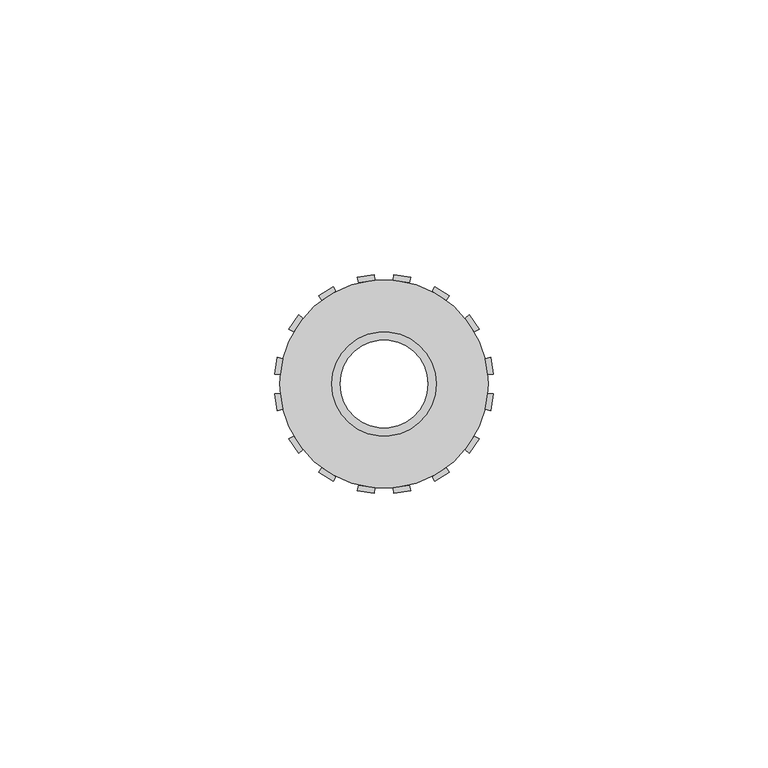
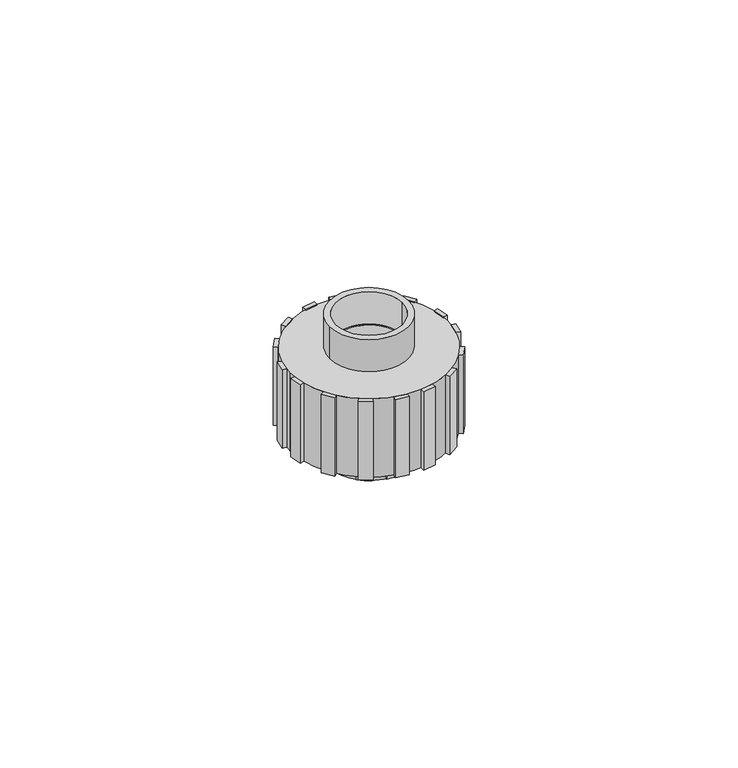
"""IFC4 building model written with IfcOpenShell, lengths in millimetres: valve geometry, Tuerca Union_Lubrizol_CPVC_FlowGuard_MX 13mm : Tuerca Union_Lubrizol_CPVC_FlowGuard_MX 13mm."""

from ifc_helpers import new_model, si_unit, point, frame, origin, origin_with_axes, origin_2d, place, context, project, spatial, polyline, circle_curve, trimmed, segment, composite_curve, outline, extrude, source, transform, mapped, element, save


def valve_b5eff330(model_context):
    return source(origin(), model_context, "Body", "SweptSolid", [
        extrude(outline(composite_curve([segment(polyline([(-1.5380547, 9.3746673), (-1.6999552, 10.3614744)]), True, "CONTINUOUS"), segment(trimmed(circle_curve(origin_2d(), 10.5), [point((-1.6999552, 10.3614744))], [point((1.6999552, 10.3614744))], False, "CARTESIAN"), True, "CONTINUOUS"), segment(polyline([(1.6999552, 10.3614744), (1.5380547, 9.3746673)]), True, "CONTINUOUS"), segment(trimmed(circle_curve(origin_2d(), 9.5), [point((1.5380547, 9.3746673))], [point((-1.5380547, 9.3746673))], True, "CARTESIAN"), True, "CONTINUOUS")], self_intersect=False)), frame((0.0, 0.0, 0.6082032), z_axis=(0.0, 0.0, 1.0), x_axis=(1.0, 0.0, 0.0)), (0.0, 0.0, 1.0), 6.8917968),
        extrude(outline(composite_curve([segment(trimmed(circle_curve(origin_2d(), 9.5), [point((6.6745199, 6.7602355))], [point((4.1645259, 8.5385434))], True, "CARTESIAN"), True, "CONTINUOUS"), segment(polyline([(4.1645259, 8.5385434), (4.602897, 9.4373375)]), True, "CONTINUOUS"), segment(trimmed(circle_curve(origin_2d(), 10.5), [point((4.602897, 9.4373375))], [point((7.377101, 7.4718392))], False, "CARTESIAN"), True, "CONTINUOUS"), segment(polyline([(7.377101, 7.4718392), (6.6745199, 6.7602355)]), True, "CONTINUOUS")], self_intersect=False)), frame((0.0, 0.0, 0.6082032), z_axis=(0.0, 0.0, 1.0), x_axis=(1.0, 0.0, 0.0)), (0.0, 0.0, 1.0), 6.8917968),
        extrude(outline(composite_curve([segment(polyline([(-6.6745199, 6.7602355), (-7.377101, 7.4718392)]), True, "CONTINUOUS"), segment(trimmed(circle_curve(origin_2d(), 10.5), [point((-7.377101, 7.4718392))], [point((-4.602897, 9.4373375))], False, "CARTESIAN"), True, "CONTINUOUS"), segment(polyline([(-4.602897, 9.4373375), (-4.1645259, 8.5385434)]), True, "CONTINUOUS"), segment(trimmed(circle_curve(origin_2d(), 9.5), [point((-4.1645259, 8.5385434))], [point((-6.6745199, 6.7602355))], True, "CARTESIAN"), True, "CONTINUOUS")], self_intersect=False)), frame((0.0, 0.0, 0.6082032), z_axis=(0.0, 0.0, 1.0), x_axis=(1.0, 0.0, 0.0)), (0.0, 0.0, 1.0), 6.8917968),
        extrude(outline(composite_curve([segment(trimmed(circle_curve(origin_2d(), 9.5), [point((-1.5380547, -9.3746673))], [point((1.5380547, -9.3746673))], True, "CARTESIAN"), True, "CONTINUOUS"), segment(polyline([(1.5380547, -9.3746673), (1.6999552, -10.3614744)]), True, "CONTINUOUS"), segment(trimmed(circle_curve(origin_2d(), 10.5), [point((1.6999552, -10.3614744))], [point((-1.6999552, -10.3614744))], False, "CARTESIAN"), True, "CONTINUOUS"), segment(polyline([(-1.6999552, -10.3614744), (-1.5380547, -9.3746673)]), True, "CONTINUOUS")], self_intersect=False)), frame((0.0, 0.0, 0.6082032), z_axis=(0.0, 0.0, 1.0), x_axis=(1.0, 0.0, 0.0)), (0.0, 0.0, 1.0), 6.8917968),
        extrude(outline(composite_curve([segment(polyline([(6.6745199, -6.7602355), (7.377101, -7.4718392)]), True, "CONTINUOUS"), segment(trimmed(circle_curve(origin_2d(), 10.5), [point((7.377101, -7.4718392))], [point((4.602897, -9.4373375))], False, "CARTESIAN"), True, "CONTINUOUS"), segment(polyline([(4.602897, -9.4373375), (4.1645259, -8.5385434)]), True, "CONTINUOUS"), segment(trimmed(circle_curve(origin_2d(), 9.5), [point((4.1645259, -8.5385434))], [point((6.6745199, -6.7602355))], True, "CARTESIAN"), True, "CONTINUOUS")], self_intersect=False)), frame((0.0, 0.0, 0.6082032), z_axis=(0.0, 0.0, 1.0), x_axis=(1.0, 0.0, 0.0)), (0.0, 0.0, 1.0), 6.8917968),
        extrude(outline(composite_curve([segment(trimmed(circle_curve(origin_2d(), 9.5), [point((-6.6745199, -6.7602355))], [point((-4.1645259, -8.5385434))], True, "CARTESIAN"), True, "CONTINUOUS"), segment(polyline([(-4.1645259, -8.5385434), (-4.602897, -9.4373375)]), True, "CONTINUOUS"), segment(trimmed(circle_curve(origin_2d(), 10.5), [point((-4.602897, -9.4373375))], [point((-7.377101, -7.4718392))], False, "CARTESIAN"), True, "CONTINUOUS"), segment(polyline([(-7.377101, -7.4718392), (-6.6745199, -6.7602355)]), True, "CONTINUOUS")], self_intersect=False)), frame((0.0, 0.0, 0.6082032), z_axis=(0.0, 0.0, 1.0), x_axis=(1.0, 0.0, 0.0)), (0.0, 0.0, 1.0), 6.8917968),
        extrude(outline(composite_curve([segment(polyline([(-4.596516, 18.4356188), (-4.8384379, 19.4059145)]), True, "CONTINUOUS"), segment(trimmed(circle_curve(origin_2d(), 20.0), [point((-4.8384379, 19.4059145))], [point((-1.7431149, 19.923894))], False, "CARTESIAN"), True, "CONTINUOUS"), segment(polyline([(-1.7431149, 19.923894), (-1.6559591, 18.9276993)]), True, "CONTINUOUS"), segment(trimmed(circle_curve(origin_2d(), 19.0), [point((-1.6559591, 18.9276993))], [point((-4.596516, 18.4356188))], True, "CARTESIAN"), True, "CONTINUOUS")], self_intersect=False)), frame((0.0, 0.0, 7.5), z_axis=(0.0, 0.0, 1.0), x_axis=(1.0, 0.0, 0.0)), (0.0, 0.0, 1.0), 20.0),
        extrude(outline(composite_curve([segment(trimmed(circle_curve(origin_2d(), 19.0), [point((-8.7732237, 16.8532058))], [point((-11.3016329, 15.2732804))], True, "CARTESIAN"), True, "CONTINUOUS"), segment(polyline([(-11.3016329, 15.2732804), (-11.8964557, 16.0771372)]), True, "CONTINUOUS"), segment(trimmed(circle_curve(origin_2d(), 20.0), [point((-11.8964557, 16.0771372))], [point((-9.2349723, 17.7402167))], False, "CARTESIAN"), True, "CONTINUOUS"), segment(polyline([(-9.2349723, 17.7402167), (-8.7732237, 16.8532058)]), True, "CONTINUOUS")], self_intersect=False)), frame((0.0, 0.0, 7.5), z_axis=(0.0, 0.0, 1.0), x_axis=(1.0, 0.0, 0.0)), (0.0, 0.0, 1.0), 20.0),
        extrude(outline(composite_curve([segment(trimmed(circle_curve(origin_2d(), 19.0), [point((-18.4356188, 4.596516))], [point((-18.9276993, 1.6559591))], True, "CARTESIAN"), True, "CONTINUOUS"), segment(polyline([(-18.9276993, 1.6559591), (-19.923894, 1.7431149)]), True, "CONTINUOUS"), segment(trimmed(circle_curve(origin_2d(), 20.0), [point((-19.923894, 1.7431149))], [point((-19.4059145, 4.8384379))], False, "CARTESIAN"), True, "CONTINUOUS"), segment(polyline([(-19.4059145, 4.8384379), (-18.4356188, 4.596516)]), True, "CONTINUOUS")], self_intersect=False)), frame((0.0, 0.0, 7.5), z_axis=(0.0, 0.0, 1.0), x_axis=(1.0, 0.0, 0.0)), (0.0, 0.0, 1.0), 20.0),
        extrude(outline(composite_curve([segment(polyline([(-16.4544827, 9.5), (-17.3205081, 10.0)]), True, "CONTINUOUS"), segment(trimmed(circle_curve(origin_2d(), 20.0), [point((-17.3205081, 10.0))], [point((-15.5429192, 12.5864078))], False, "CARTESIAN"), True, "CONTINUOUS"), segment(polyline([(-15.5429192, 12.5864078), (-14.7657733, 11.9570874)]), True, "CONTINUOUS"), segment(trimmed(circle_curve(origin_2d(), 19.0), [point((-14.7657733, 11.9570874))], [point((-16.4544827, 9.5))], True, "CARTESIAN"), True, "CONTINUOUS")], self_intersect=False)), frame((0.0, 0.0, 7.5), z_axis=(0.0, 0.0, 1.0), x_axis=(1.0, 0.0, 0.0)), (0.0, 0.0, 1.0), 20.0),
        extrude(outline(composite_curve([segment(trimmed(circle_curve(origin_2d(), 19.0), [point((4.596516, 18.4356188))], [point((1.6559591, 18.9276993))], True, "CARTESIAN"), True, "CONTINUOUS"), segment(polyline([(1.6559591, 18.9276993), (1.7431149, 19.923894)]), True, "CONTINUOUS"), segment(trimmed(circle_curve(origin_2d(), 20.0), [point((1.7431149, 19.923894))], [point((4.8384379, 19.4059145))], False, "CARTESIAN"), True, "CONTINUOUS"), segment(polyline([(4.8384379, 19.4059145), (4.596516, 18.4356188)]), True, "CONTINUOUS")], self_intersect=False)), frame((0.0, 0.0, 7.5), z_axis=(0.0, 0.0, 1.0), x_axis=(1.0, 0.0, 0.0)), (0.0, 0.0, 1.0), 20.0),
        extrude(outline(composite_curve([segment(polyline([(8.7732237, 16.8532058), (9.2349723, 17.7402167)]), True, "CONTINUOUS"), segment(trimmed(circle_curve(origin_2d(), 20.0), [point((9.2349723, 17.7402167))], [point((11.8964557, 16.0771372))], False, "CARTESIAN"), True, "CONTINUOUS"), segment(polyline([(11.8964557, 16.0771372), (11.3016329, 15.2732804)]), True, "CONTINUOUS"), segment(trimmed(circle_curve(origin_2d(), 19.0), [point((11.3016329, 15.2732804))], [point((8.7732237, 16.8532058))], True, "CARTESIAN"), True, "CONTINUOUS")], self_intersect=False)), frame((0.0, 0.0, 7.5), z_axis=(0.0, 0.0, 1.0), x_axis=(1.0, 0.0, 0.0)), (0.0, 0.0, 1.0), 20.0),
        extrude(outline(composite_curve([segment(polyline([(18.4356188, 4.596516), (19.4059145, 4.8384379)]), True, "CONTINUOUS"), segment(trimmed(circle_curve(origin_2d(), 20.0), [point((19.4059145, 4.8384379))], [point((19.923894, 1.7431149))], False, "CARTESIAN"), True, "CONTINUOUS"), segment(polyline([(19.923894, 1.7431149), (18.9276993, 1.6559591)]), True, "CONTINUOUS"), segment(trimmed(circle_curve(origin_2d(), 19.0), [point((18.9276993, 1.6559591))], [point((18.4356188, 4.596516))], True, "CARTESIAN"), True, "CONTINUOUS")], self_intersect=False)), frame((0.0, 0.0, 7.5), z_axis=(0.0, 0.0, 1.0), x_axis=(1.0, 0.0, 0.0)), (0.0, 0.0, 1.0), 20.0),
        extrude(outline(composite_curve([segment(trimmed(circle_curve(origin_2d(), 19.0), [point((16.4544827, 9.5))], [point((14.7657733, 11.9570874))], True, "CARTESIAN"), True, "CONTINUOUS"), segment(polyline([(14.7657733, 11.9570874), (15.5429192, 12.5864078)]), True, "CONTINUOUS"), segment(trimmed(circle_curve(origin_2d(), 20.0), [point((15.5429192, 12.5864078))], [point((17.3205081, 10.0))], False, "CARTESIAN"), True, "CONTINUOUS"), segment(polyline([(17.3205081, 10.0), (16.4544827, 9.5)]), True, "CONTINUOUS")], self_intersect=False)), frame((0.0, 0.0, 7.5), z_axis=(0.0, 0.0, 1.0), x_axis=(1.0, 0.0, 0.0)), (0.0, 0.0, 1.0), 20.0),
        extrude(outline(composite_curve([segment(trimmed(circle_curve(origin_2d(), 19.0), [point((-4.596516, -18.4356188))], [point((-1.6559591, -18.9276993))], True, "CARTESIAN"), True, "CONTINUOUS"), segment(polyline([(-1.6559591, -18.9276993), (-1.7431149, -19.923894)]), True, "CONTINUOUS"), segment(trimmed(circle_curve(origin_2d(), 20.0), [point((-1.7431149, -19.923894))], [point((-4.8384379, -19.4059145))], False, "CARTESIAN"), True, "CONTINUOUS"), segment(polyline([(-4.8384379, -19.4059145), (-4.596516, -18.4356188)]), True, "CONTINUOUS")], self_intersect=False)), frame((0.0, 0.0, 7.5), z_axis=(0.0, 0.0, 1.0), x_axis=(1.0, 0.0, 0.0)), (0.0, 0.0, 1.0), 20.0),
        extrude(outline(composite_curve([segment(polyline([(-8.7732237, -16.8532058), (-9.2349723, -17.7402167)]), True, "CONTINUOUS"), segment(trimmed(circle_curve(origin_2d(), 20.0), [point((-9.2349723, -17.7402167))], [point((-11.8964557, -16.0771372))], False, "CARTESIAN"), True, "CONTINUOUS"), segment(polyline([(-11.8964557, -16.0771372), (-11.3016329, -15.2732804)]), True, "CONTINUOUS"), segment(trimmed(circle_curve(origin_2d(), 19.0), [point((-11.3016329, -15.2732804))], [point((-8.7732237, -16.8532058))], True, "CARTESIAN"), True, "CONTINUOUS")], self_intersect=False)), frame((0.0, 0.0, 7.5), z_axis=(0.0, 0.0, 1.0), x_axis=(1.0, 0.0, 0.0)), (0.0, 0.0, 1.0), 20.0),
        extrude(outline(composite_curve([segment(polyline([(-18.4356188, -4.596516), (-19.4059145, -4.8384379)]), True, "CONTINUOUS"), segment(trimmed(circle_curve(origin_2d(), 20.0), [point((-19.4059145, -4.8384379))], [point((-19.923894, -1.7431149))], False, "CARTESIAN"), True, "CONTINUOUS"), segment(polyline([(-19.923894, -1.7431149), (-18.9276993, -1.6559591)]), True, "CONTINUOUS"), segment(trimmed(circle_curve(origin_2d(), 19.0), [point((-18.9276993, -1.6559591))], [point((-18.4356188, -4.596516))], True, "CARTESIAN"), True, "CONTINUOUS")], self_intersect=False)), frame((0.0, 0.0, 7.5), z_axis=(0.0, 0.0, 1.0), x_axis=(1.0, 0.0, 0.0)), (0.0, 0.0, 1.0), 20.0),
        extrude(outline(composite_curve([segment(trimmed(circle_curve(origin_2d(), 19.0), [point((-16.4544827, -9.5))], [point((-14.7657733, -11.9570874))], True, "CARTESIAN"), True, "CONTINUOUS"), segment(polyline([(-14.7657733, -11.9570874), (-15.5429192, -12.5864078)]), True, "CONTINUOUS"), segment(trimmed(circle_curve(origin_2d(), 20.0), [point((-15.5429192, -12.5864078))], [point((-17.3205081, -10.0))], False, "CARTESIAN"), True, "CONTINUOUS"), segment(polyline([(-17.3205081, -10.0), (-16.4544827, -9.5)]), True, "CONTINUOUS")], self_intersect=False)), frame((0.0, 0.0, 7.5), z_axis=(0.0, 0.0, 1.0), x_axis=(1.0, 0.0, 0.0)), (0.0, 0.0, 1.0), 20.0),
        extrude(outline(composite_curve([segment(polyline([(4.596516, -18.4356188), (4.8384379, -19.4059145)]), True, "CONTINUOUS"), segment(trimmed(circle_curve(origin_2d(), 20.0), [point((4.8384379, -19.4059145))], [point((1.7431149, -19.923894))], False, "CARTESIAN"), True, "CONTINUOUS"), segment(polyline([(1.7431149, -19.923894), (1.6559591, -18.9276993)]), True, "CONTINUOUS"), segment(trimmed(circle_curve(origin_2d(), 19.0), [point((1.6559591, -18.9276993))], [point((4.596516, -18.4356188))], True, "CARTESIAN"), True, "CONTINUOUS")], self_intersect=False)), frame((0.0, 0.0, 7.5), z_axis=(0.0, 0.0, 1.0), x_axis=(1.0, 0.0, 0.0)), (0.0, 0.0, 1.0), 20.0),
        extrude(outline(composite_curve([segment(trimmed(circle_curve(origin_2d(), 19.0), [point((8.7732237, -16.8532058))], [point((11.3016329, -15.2732804))], True, "CARTESIAN"), True, "CONTINUOUS"), segment(polyline([(11.3016329, -15.2732804), (11.8964557, -16.0771372)]), True, "CONTINUOUS"), segment(trimmed(circle_curve(origin_2d(), 20.0), [point((11.8964557, -16.0771372))], [point((9.2349723, -17.7402167))], False, "CARTESIAN"), True, "CONTINUOUS"), segment(polyline([(9.2349723, -17.7402167), (8.7732237, -16.8532058)]), True, "CONTINUOUS")], self_intersect=False)), frame((0.0, 0.0, 7.5), z_axis=(0.0, 0.0, 1.0), x_axis=(1.0, 0.0, 0.0)), (0.0, 0.0, 1.0), 20.0),
        extrude(outline(composite_curve([segment(trimmed(circle_curve(origin_2d(), 19.0), [point((18.4356188, -4.596516))], [point((18.9276993, -1.6559591))], True, "CARTESIAN"), True, "CONTINUOUS"), segment(polyline([(18.9276993, -1.6559591), (19.923894, -1.7431149)]), True, "CONTINUOUS"), segment(trimmed(circle_curve(origin_2d(), 20.0), [point((19.923894, -1.7431149))], [point((19.4059145, -4.8384379))], False, "CARTESIAN"), True, "CONTINUOUS"), segment(polyline([(19.4059145, -4.8384379), (18.4356188, -4.596516)]), True, "CONTINUOUS")], self_intersect=False)), frame((0.0, 0.0, 7.5), z_axis=(0.0, 0.0, 1.0), x_axis=(1.0, 0.0, 0.0)), (0.0, 0.0, 1.0), 20.0),
        extrude(outline(composite_curve([segment(polyline([(16.4544827, -9.5), (17.3205081, -10.0)]), True, "CONTINUOUS"), segment(trimmed(circle_curve(origin_2d(), 20.0), [point((17.3205081, -10.0))], [point((15.5429192, -12.5864078))], False, "CARTESIAN"), True, "CONTINUOUS"), segment(polyline([(15.5429192, -12.5864078), (14.7657733, -11.9570874)]), True, "CONTINUOUS"), segment(trimmed(circle_curve(origin_2d(), 19.0), [point((14.7657733, -11.9570874))], [point((16.4544827, -9.5))], True, "CARTESIAN"), True, "CONTINUOUS")], self_intersect=False)), frame((0.0, 0.0, 7.5), z_axis=(0.0, 0.0, 1.0), x_axis=(1.0, 0.0, 0.0)), (0.0, 0.0, 1.0), 20.0),
        extrude(outline(composite_curve([segment(trimmed(circle_curve(origin_2d(), 9.5), [point((-9.5, 0.0))], [point((9.5, 0.0))], False, "CARTESIAN"), True, "CONTINUOUS"), segment(trimmed(circle_curve(origin_2d(), 9.5), [point((9.5, 0.0))], [point((-9.5, 0.0))], False, "CARTESIAN"), True, "CONTINUOUS")], self_intersect=False), holes=[composite_curve([segment(trimmed(circle_curve(origin_2d(), 8.0), [point((-8.0, 0.0))], [point((8.0, 0.0))], True, "CARTESIAN"), True, "CONTINUOUS"), segment(trimmed(circle_curve(origin_2d(), 8.0), [point((8.0, 0.0))], [point((-8.0, 0.0))], True, "CARTESIAN"), True, "CONTINUOUS")], self_intersect=False)]), origin_with_axes(), (0.0, 0.0, 1.0), 7.5),
        extrude(outline(composite_curve([segment(trimmed(circle_curve(origin_2d(), 19.0), [point((-19.0, 0.0))], [point((19.0, 0.0))], False, "CARTESIAN"), True, "CONTINUOUS"), segment(trimmed(circle_curve(origin_2d(), 19.0), [point((19.0, 0.0))], [point((-19.0, 0.0))], False, "CARTESIAN"), True, "CONTINUOUS")], self_intersect=False), holes=[composite_curve([segment(trimmed(circle_curve(origin_2d(), 8.0), [point((-8.0, 0.0))], [point((8.0, 0.0))], True, "CARTESIAN"), True, "CONTINUOUS"), segment(trimmed(circle_curve(origin_2d(), 8.0), [point((8.0, 0.0))], [point((-8.0, 0.0))], True, "CARTESIAN"), True, "CONTINUOUS")], self_intersect=False)]), frame((0.0, 0.0, 7.5), z_axis=(0.0, 0.0, 1.0), x_axis=(1.0, 0.0, 0.0)), (0.0, 0.0, 1.0), 20.0),
        extrude(outline(composite_curve([segment(trimmed(circle_curve(origin_2d(), 9.5), [point((-9.5, 0.0))], [point((9.5, 0.0))], False, "CARTESIAN"), True, "CONTINUOUS"), segment(trimmed(circle_curve(origin_2d(), 9.5), [point((9.5, 0.0))], [point((-9.5, 0.0))], False, "CARTESIAN"), True, "CONTINUOUS")], self_intersect=False), holes=[composite_curve([segment(trimmed(circle_curve(origin_2d(), 8.0), [point((-8.0, 0.0))], [point((8.0, 0.0))], True, "CARTESIAN"), True, "CONTINUOUS"), segment(trimmed(circle_curve(origin_2d(), 8.0), [point((8.0, 0.0))], [point((-8.0, 0.0))], True, "CARTESIAN"), True, "CONTINUOUS")], self_intersect=False)]), frame((0.0, 0.0, 27.5), z_axis=(0.0, 0.0, 1.0), x_axis=(1.0, 0.0, 0.0)), (0.0, 0.0, 1.0), 8.5),
    ])


if __name__ == "__main__":
    model = new_model("IFC4")
    model_context = context("Model", 3, world=origin())
    ifc_project = project(units=[si_unit("LENGTHUNIT", "METRE", prefix="MILLI")], contexts=[model_context])
    site = spatial("IfcSite", under=ifc_project)
    building = spatial("IfcBuilding", under=site)
    placement = place(None, origin())
    valve_shape = valve_b5eff330(model_context)
    element("IfcValve", 1, ObjectType="Tuerca Union_Lubrizol_CPVC_FlowGuard_MX 13mm : Tuerca Union_Lubrizol_CPVC_FlowGuard_MX 13mm", at=placement, inside=building, context=model_context, shape_type="MappedRepresentation", body=[
        mapped(valve_shape, transform((0.0, 0.0, 0.0), x_axis=(1.0, 0.0, 0.0), y_axis=(0.0, 1.0, 0.0), z_axis=(0.0, 0.0, 1.0))),
    ])
    save(model, "model.ifc")
